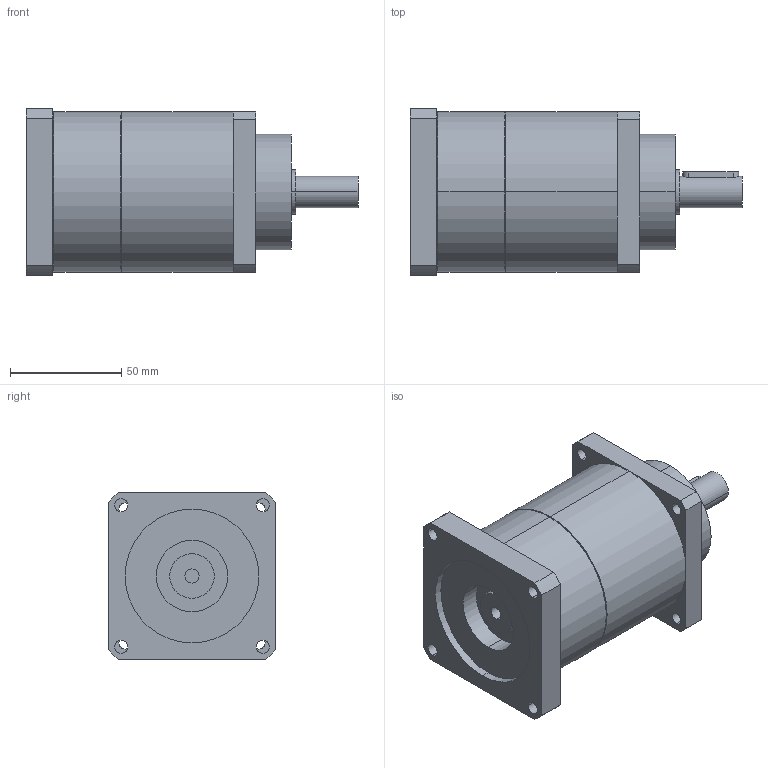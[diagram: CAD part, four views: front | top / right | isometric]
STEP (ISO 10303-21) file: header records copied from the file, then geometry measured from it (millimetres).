
FILE_DESCRIPTION(('CoCreate Modeling STEP Export'),'2;1');
FILE_NAME('GPT75_ig-9-12-16-20-25-28-35-40-50-70-100_14_B5T_6.35_P15.stp','2014-08-27T13:38:47',(''),(''),'CoCreate Modeling STEP processor for AP214 (Solid Model)','CoCreate Modeling 16.00C 25-Feb-2009 (C) Parametric Technology GmbH','');
FILE_SCHEMA(('AUTOMOTIVE_DESIGN { 1 0 10303 214 1 1 1 1 }'));
Length unit declared in the file: millimetre
Products named in the file (2): GPT75_ig-9-12-16-20-25-28-35-40-50-70-100_14_B5T_6.35_P15
Assembly tree (1 placements, depth 2):
  GPT75_ig-9-12-16-20-25-28-35-40-50-70-100_14_B5T_6.35_P15
    GPT75_ig-9-12-16-20-25-28-35-40-50-70-100_14_B5T_6.35_P15
Bounding box: 149 x 75 x 75 mm (x, y, z)
Volume: 468462.6 mm3; surface area: 46091.4 mm2
Topology: 1 solids, 1 shells, 77 faces, 194 edges, 129 vertices
Faces by surface type: cylinder 46, plane 27, cone 4
Entity records: 2484 total; most frequent: CARTESIAN_POINT 719, ORIENTED_EDGE 388, DIRECTION 320, EDGE_CURVE 194, VERTEX_POINT 129, AXIS2_PLACEMENT_3D 118, EDGE_LOOP 103, VECTOR 84
